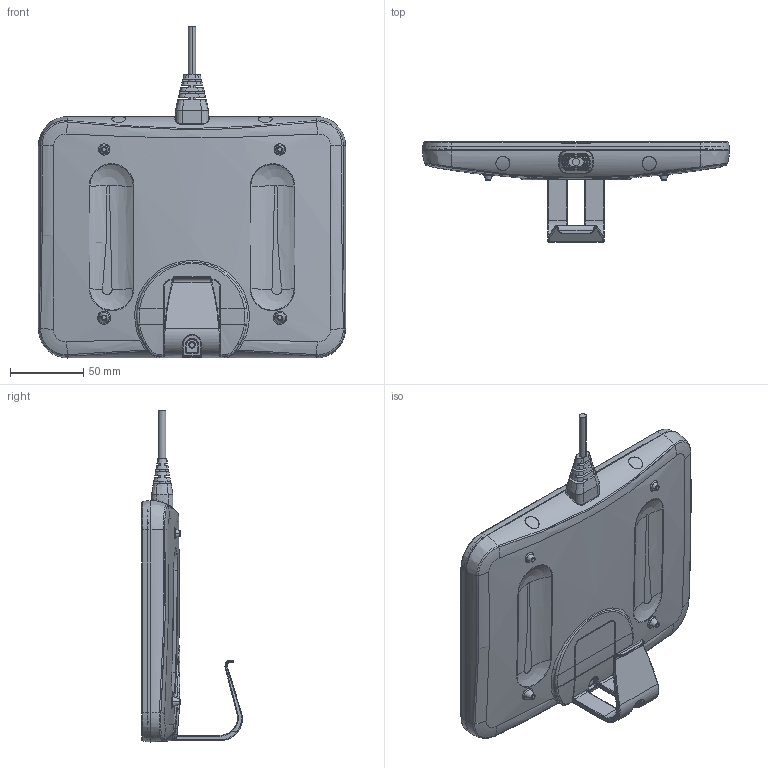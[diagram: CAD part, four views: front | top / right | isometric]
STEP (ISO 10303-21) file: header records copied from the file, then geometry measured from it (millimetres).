
FILE_DESCRIPTION((''),'2;1');
FILE_NAME('CP2-','2019-08-01T',('USER'),(''),'PRO/ENGINEER BY PARAMETRIC TECHNOLOGY CORPORATION, 2008090','PRO/ENGINEER BY PARAMETRIC TECHNOLOGY CORPORATION, 2008090','');
FILE_SCHEMA(('CONFIG_CONTROL_DESIGN'));
Products named in the file (1): CP2-
Bounding box: 210 x 68.73 x 226.9 mm (x, y, z)
Volume: 220834.9 mm3; surface area: 217535.2 mm2
Topology: 1 solids, 11 shells, 1981 faces, 5108 edges, 3270 vertices
Faces by surface type: plane 585, cylinder 528, bspline 394, torus 255, cone 199, sphere 14, extrusion 4, revolution 2
Entity records: 81873 total; most frequent: CARTESIAN_POINT 35755, ORIENTED_EDGE 10190, DIRECTION 9117, EDGE_CURVE 5095, AXIS2_PLACEMENT_3D 3721, VERTEX_POINT 3270, EDGE_LOOP 2147, CIRCLE 2140
